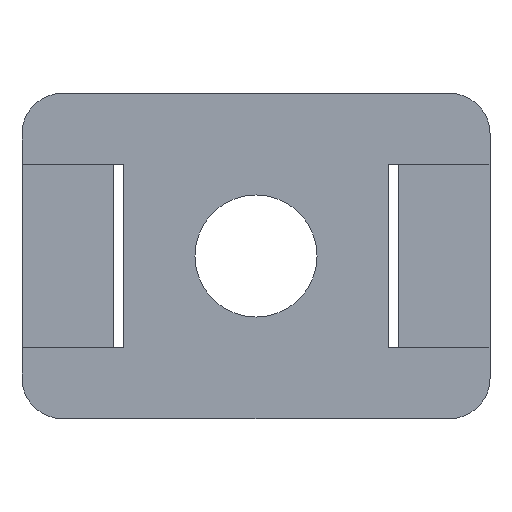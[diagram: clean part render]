
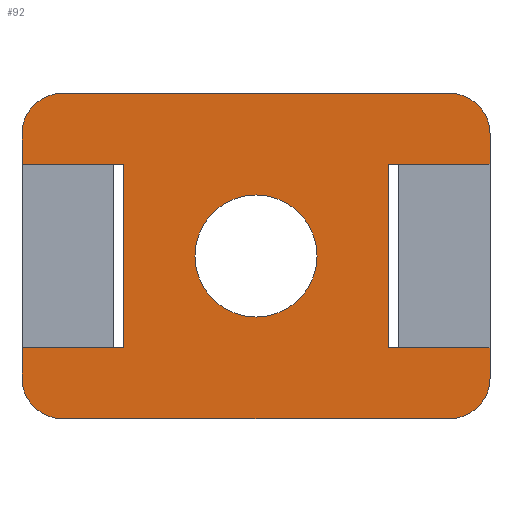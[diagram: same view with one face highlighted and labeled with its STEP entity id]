
A CAD part, front view. The second image highlights one B-rep face of the part: STEP entity #92.
In plain terms, the highlighted planar face has unit normal (0, -1, 0).
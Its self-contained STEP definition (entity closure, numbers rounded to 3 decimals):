
#5 = DIRECTION ( 'NONE',  ( 1., 0., 0. ) ) ;
#29 = EDGE_CURVE ( 'NONE', #919, #127, #1041, .T. ) ;
#30 = LINE ( 'NONE', #258, #762 ) ;
#32 = EDGE_CURVE ( 'NONE', #221, #268, #590, .T. ) ;
#39 = CIRCLE ( 'NONE', #108, 3. ) ;
#44 = DIRECTION ( 'NONE',  ( 0., -1., 0. ) ) ;
#61 = VECTOR ( 'NONE', #946, 1000. ) ;
#64 = AXIS2_PLACEMENT_3D ( 'NONE', #770, #228, #869 ) ;
#73 = ORIENTED_EDGE ( 'NONE', *, *, #621, .F. ) ;
#87 = ORIENTED_EDGE ( 'NONE', *, *, #1166, .T. ) ;
#92 = ADVANCED_FACE ( 'NONE', ( #261, #718 ), #132, .F. ) ;
#99 = ORIENTED_EDGE ( 'NONE', *, *, #591, .F. ) ;
#105 = VECTOR ( 'NONE', #1124, 1000. ) ;
#108 = AXIS2_PLACEMENT_3D ( 'NONE', #498, #1131, #587 ) ;
#117 = VECTOR ( 'NONE', #749, 1000. ) ;
#125 = VERTEX_POINT ( 'NONE', #483 ) ;
#127 = VERTEX_POINT ( 'NONE', #966 ) ;
#131 = EDGE_CURVE ( 'NONE', #1065, #1091, #779, .T. ) ;
#132 = PLANE ( 'NONE',  #64 ) ;
#153 = VERTEX_POINT ( 'NONE', #312 ) ;
#154 = CARTESIAN_POINT ( 'NONE',  ( 0., -3.178, 12.5 ) ) ;
#156 = VERTEX_POINT ( 'NONE', #411 ) ;
#161 = ORIENTED_EDGE ( 'NONE', *, *, #131, .T. ) ;
#172 = CARTESIAN_POINT ( 'NONE',  ( -8.064, -3.178, 14. ) ) ;
#187 = CARTESIAN_POINT ( 'NONE',  ( -8.064, -3.178, 0. ) ) ;
#192 = CIRCLE ( 'NONE', #871, 2. ) ;
#203 = CARTESIAN_POINT ( 'NONE',  ( 14.936, -3.178, 14. ) ) ;
#210 = CARTESIAN_POINT ( 'NONE',  ( -3.064, -3.178, 12.5 ) ) ;
#211 = ORIENTED_EDGE ( 'NONE', *, *, #354, .F. ) ;
#214 = DIRECTION ( 'NONE',  ( -1., 0., 0. ) ) ;
#216 = CARTESIAN_POINT ( 'NONE',  ( 12.936, -3.178, 14. ) ) ;
#218 = VECTOR ( 'NONE', #5, 1000. ) ;
#221 = VERTEX_POINT ( 'NONE', #203 ) ;
#228 = DIRECTION ( 'NONE',  ( 0., 1., 0. ) ) ;
#233 = CARTESIAN_POINT ( 'NONE',  ( -3.064, -3.178, 0. ) ) ;
#238 = ORIENTED_EDGE ( 'NONE', *, *, #460, .T. ) ;
#255 = CIRCLE ( 'NONE', #686, 3. ) ;
#258 = CARTESIAN_POINT ( 'NONE',  ( 0., -3.178, 3.5 ) ) ;
#261 = FACE_BOUND ( 'NONE', #341, .T. ) ;
#262 = EDGE_CURVE ( 'NONE', #125, #842, #888, .T. ) ;
#263 = VECTOR ( 'NONE', #214, 1000. ) ;
#264 = CARTESIAN_POINT ( 'NONE',  ( 14.936, -3.178, 3.5 ) ) ;
#268 = VERTEX_POINT ( 'NONE', #941 ) ;
#274 = VERTEX_POINT ( 'NONE', #437 ) ;
#280 = EDGE_CURVE ( 'NONE', #153, #919, #1074, .T. ) ;
#288 = CARTESIAN_POINT ( 'NONE',  ( -3.064, -3.178, 3.5 ) ) ;
#290 = CARTESIAN_POINT ( 'NONE',  ( 14.936, -3.178, 2. ) ) ;
#298 = VERTEX_POINT ( 'NONE', #444 ) ;
#305 = EDGE_CURVE ( 'NONE', #274, #1004, #192, .T. ) ;
#306 = ORIENTED_EDGE ( 'NONE', *, *, #1016, .T. ) ;
#309 = DIRECTION ( 'NONE',  ( 0., 0., 1. ) ) ;
#312 = CARTESIAN_POINT ( 'NONE',  ( 14.936, -3.178, 12.5 ) ) ;
#326 = VECTOR ( 'NONE', #1126, 1000. ) ;
#329 = DIRECTION ( 'NONE',  ( 0., 0., -1. ) ) ;
#330 = CARTESIAN_POINT ( 'NONE',  ( -6.064, -3.178, 2. ) ) ;
#341 = EDGE_LOOP ( 'NONE', ( #238, #87 ) ) ;
#354 = EDGE_CURVE ( 'NONE', #399, #268, #1115, .T. ) ;
#361 = LINE ( 'NONE', #829, #105 ) ;
#367 = ORIENTED_EDGE ( 'NONE', *, *, #280, .F. ) ;
#387 = VECTOR ( 'NONE', #1057, 1000. ) ;
#396 = CARTESIAN_POINT ( 'NONE',  ( 0., -3.178, 12.5 ) ) ;
#399 = VERTEX_POINT ( 'NONE', #959 ) ;
#404 = VERTEX_POINT ( 'NONE', #172 ) ;
#406 = VECTOR ( 'NONE', #1027, 1000. ) ;
#407 = VERTEX_POINT ( 'NONE', #264 ) ;
#411 = CARTESIAN_POINT ( 'NONE',  ( -8.064, -3.178, 12.5 ) ) ;
#416 = ORIENTED_EDGE ( 'NONE', *, *, #305, .T. ) ;
#422 = AXIS2_PLACEMENT_3D ( 'NONE', #984, #443, #1071 ) ;
#430 = DIRECTION ( 'NONE',  ( 0., 0., 1. ) ) ;
#437 = CARTESIAN_POINT ( 'NONE',  ( 12.936, -3.178, 0. ) ) ;
#443 = DIRECTION ( 'NONE',  ( 0., -1., 0. ) ) ;
#444 = CARTESIAN_POINT ( 'NONE',  ( -6.064, -3.178, 0. ) ) ;
#455 = EDGE_CURVE ( 'NONE', #1091, #125, #515, .T. ) ;
#460 = EDGE_CURVE ( 'NONE', #1139, #647, #39, .T. ) ;
#477 = CARTESIAN_POINT ( 'NONE',  ( 3.436, -3.178, 8. ) ) ;
#483 = CARTESIAN_POINT ( 'NONE',  ( -8.064, -3.178, 3.5 ) ) ;
#493 = CARTESIAN_POINT ( 'NONE',  ( 14.936, -3.178, 16. ) ) ;
#496 = CARTESIAN_POINT ( 'NONE',  ( 3.436, -3.178, 5. ) ) ;
#498 = CARTESIAN_POINT ( 'NONE',  ( 3.436, -3.178, 8. ) ) ;
#515 = LINE ( 'NONE', #807, #263 ) ;
#550 = VECTOR ( 'NONE', #329, 1000. ) ;
#556 = CARTESIAN_POINT ( 'NONE',  ( 3.436, -3.178, 11. ) ) ;
#564 = DIRECTION ( 'NONE',  ( 0., 0., 1. ) ) ;
#583 = ORIENTED_EDGE ( 'NONE', *, *, #1188, .T. ) ;
#587 = DIRECTION ( 'NONE',  ( 0., 0., 1. ) ) ;
#590 = CIRCLE ( 'NONE', #765, 2. ) ;
#591 = EDGE_CURVE ( 'NONE', #221, #153, #361, .T. ) ;
#607 = CARTESIAN_POINT ( 'NONE',  ( 12.936, -3.178, 2. ) ) ;
#618 = LINE ( 'NONE', #396, #878 ) ;
#621 = EDGE_CURVE ( 'NONE', #407, #1004, #1050, .T. ) ;
#647 = VERTEX_POINT ( 'NONE', #496 ) ;
#666 = AXIS2_PLACEMENT_3D ( 'NONE', #330, #967, #430 ) ;
#686 = AXIS2_PLACEMENT_3D ( 'NONE', #477, #1112, #564 ) ;
#698 = DIRECTION ( 'NONE',  ( 0., 0., 1. ) ) ;
#700 = ORIENTED_EDGE ( 'NONE', *, *, #716, .T. ) ;
#714 = CARTESIAN_POINT ( 'NONE',  ( 9.936, -3.178, 12.5 ) ) ;
#716 = EDGE_CURVE ( 'NONE', #399, #404, #720, .T. ) ;
#718 = FACE_OUTER_BOUND ( 'NONE', #908, .T. ) ;
#720 = CIRCLE ( 'NONE', #422, 2. ) ;
#729 = ORIENTED_EDGE ( 'NONE', *, *, #262, .T. ) ;
#749 = DIRECTION ( 'NONE',  ( 0., 0., -1. ) ) ;
#762 = VECTOR ( 'NONE', #897, 1000. ) ;
#763 = ORIENTED_EDGE ( 'NONE', *, *, #916, .F. ) ;
#765 = AXIS2_PLACEMENT_3D ( 'NONE', #216, #852, #309 ) ;
#770 = CARTESIAN_POINT ( 'NONE',  ( -8.064, -3.178, 16. ) ) ;
#779 = LINE ( 'NONE', #233, #550 ) ;
#793 = DIRECTION ( 'NONE',  ( -1., 0., 0. ) ) ;
#805 = ORIENTED_EDGE ( 'NONE', *, *, #1020, .T. ) ;
#807 = CARTESIAN_POINT ( 'NONE',  ( 0., -3.178, 3.5 ) ) ;
#808 = EDGE_CURVE ( 'NONE', #842, #298, #1068, .T. ) ;
#810 = ORIENTED_EDGE ( 'NONE', *, *, #29, .F. ) ;
#829 = CARTESIAN_POINT ( 'NONE',  ( 14.936, -3.178, 16. ) ) ;
#837 = CARTESIAN_POINT ( 'NONE',  ( -8.064, -3.178, 16. ) ) ;
#842 = VERTEX_POINT ( 'NONE', #1159 ) ;
#847 = CARTESIAN_POINT ( 'NONE',  ( 9.936, -3.178, 0. ) ) ;
#852 = DIRECTION ( 'NONE',  ( 0., -1., 0. ) ) ;
#857 = VECTOR ( 'NONE', #793, 1000. ) ;
#858 = ORIENTED_EDGE ( 'NONE', *, *, #32, .T. ) ;
#869 = DIRECTION ( 'NONE',  ( 0., 0., 1. ) ) ;
#871 = AXIS2_PLACEMENT_3D ( 'NONE', #607, #44, #698 ) ;
#878 = VECTOR ( 'NONE', #1026, 1000. ) ;
#888 = LINE ( 'NONE', #1123, #406 ) ;
#894 = ORIENTED_EDGE ( 'NONE', *, *, #808, .T. ) ;
#897 = DIRECTION ( 'NONE',  ( 1., 0., 0. ) ) ;
#908 = EDGE_LOOP ( 'NONE', ( #729, #894, #583, #416, #73, #763, #810, #367, #99, #858, #211, #700, #805, #306, #161, #1030 ) ) ;
#916 = EDGE_CURVE ( 'NONE', #127, #407, #30, .T. ) ;
#919 = VERTEX_POINT ( 'NONE', #714 ) ;
#941 = CARTESIAN_POINT ( 'NONE',  ( 12.936, -3.178, 16. ) ) ;
#946 = DIRECTION ( 'NONE',  ( 0., 0., -1. ) ) ;
#959 = CARTESIAN_POINT ( 'NONE',  ( -6.064, -3.178, 16. ) ) ;
#966 = CARTESIAN_POINT ( 'NONE',  ( 9.936, -3.178, 3.5 ) ) ;
#967 = DIRECTION ( 'NONE',  ( 0., -1., 0. ) ) ;
#984 = CARTESIAN_POINT ( 'NONE',  ( -6.064, -3.178, 14. ) ) ;
#1004 = VERTEX_POINT ( 'NONE', #290 ) ;
#1007 = LINE ( 'NONE', #187, #218 ) ;
#1016 = EDGE_CURVE ( 'NONE', #156, #1065, #618, .T. ) ;
#1020 = EDGE_CURVE ( 'NONE', #404, #156, #1092, .T. ) ;
#1026 = DIRECTION ( 'NONE',  ( 1., 0., 0. ) ) ;
#1027 = DIRECTION ( 'NONE',  ( 0., 0., -1. ) ) ;
#1030 = ORIENTED_EDGE ( 'NONE', *, *, #455, .T. ) ;
#1041 = LINE ( 'NONE', #847, #61 ) ;
#1050 = LINE ( 'NONE', #493, #326 ) ;
#1057 = DIRECTION ( 'NONE',  ( 1., 0., 0. ) ) ;
#1065 = VERTEX_POINT ( 'NONE', #210 ) ;
#1068 = CIRCLE ( 'NONE', #666, 2. ) ;
#1071 = DIRECTION ( 'NONE',  ( 0., 0., 1. ) ) ;
#1074 = LINE ( 'NONE', #154, #857 ) ;
#1091 = VERTEX_POINT ( 'NONE', #288 ) ;
#1092 = LINE ( 'NONE', #837, #117 ) ;
#1112 = DIRECTION ( 'NONE',  ( 0., 1., 0. ) ) ;
#1115 = LINE ( 'NONE', #1167, #387 ) ;
#1123 = CARTESIAN_POINT ( 'NONE',  ( -8.064, -3.178, 16. ) ) ;
#1124 = DIRECTION ( 'NONE',  ( 0., 0., -1. ) ) ;
#1126 = DIRECTION ( 'NONE',  ( 0., 0., -1. ) ) ;
#1131 = DIRECTION ( 'NONE',  ( 0., 1., 0. ) ) ;
#1139 = VERTEX_POINT ( 'NONE', #556 ) ;
#1159 = CARTESIAN_POINT ( 'NONE',  ( -8.064, -3.178, 2. ) ) ;
#1166 = EDGE_CURVE ( 'NONE', #647, #1139, #255, .T. ) ;
#1167 = CARTESIAN_POINT ( 'NONE',  ( -8.064, -3.178, 16. ) ) ;
#1188 = EDGE_CURVE ( 'NONE', #298, #274, #1007, .T. ) ;
